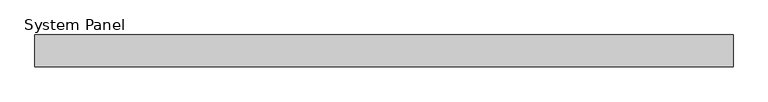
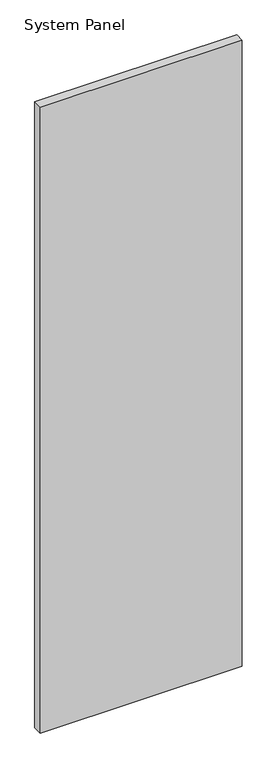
"""IFC4 building model written with IfcOpenShell, lengths in millimetres: plate geometry, System Panel : Inspire 50mm Vertical - Plain RHEA-PIR."""

from ifc_helpers import new_model, si_unit, origin, origin_with_axes, place, context, project, spatial, polyline, outline, extrude, source, transform, mapped, element, save


def system_panel_d14b1779(model_context):
    return source(origin(), model_context, "Body", "SweptSolid", [
        extrude(outline(polyline([(550.0, 0.0), (-550.0, 0.0), (-550.0, 50.0), (550.0, 50.0), (550.0, 0.0)])), origin_with_axes(), (0.0, 0.0, 1.0), 3600.0),
    ])


if __name__ == "__main__":
    model = new_model("IFC4")
    model_context = context("Model", 3, world=origin())
    ifc_project = project(units=[si_unit("LENGTHUNIT", "METRE", prefix="MILLI")], contexts=[model_context])
    site = spatial("IfcSite", under=ifc_project)
    building = spatial("IfcBuilding", under=site)
    placement = place(None, origin())
    system_panel_shape = system_panel_d14b1779(model_context)
    element("IfcPlate", 1, ObjectType="System Panel : Inspire 50mm Vertical - Plain RHEA-PIR", at=placement, inside=building, context=model_context, shape_type="MappedRepresentation", body=[
        mapped(system_panel_shape, transform((0.0, 0.0, 0.0), x_axis=(1.0, 0.0, 0.0), y_axis=(0.0, 1.0, 0.0), z_axis=(0.0, 0.0, 1.0))),
    ])
    save(model, "model.ifc")
